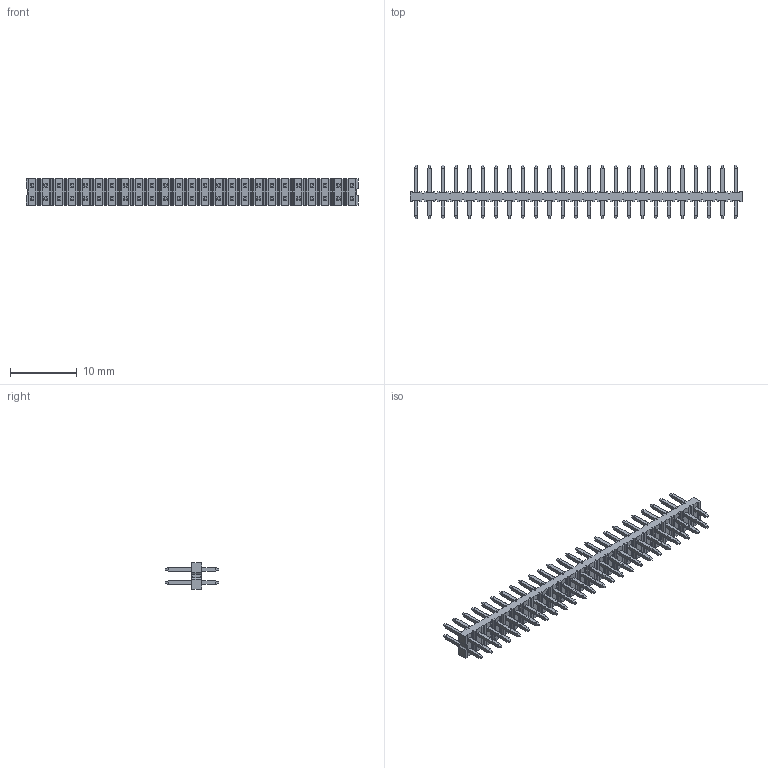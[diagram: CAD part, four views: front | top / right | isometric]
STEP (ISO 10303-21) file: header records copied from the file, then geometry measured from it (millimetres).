
FILE_DESCRIPTION((''),'2;1');
FILE_NAME('877585017','2018-12-12T',('gga'),(''),'PRO/ENGINEER BY PARAMETRIC TECHNOLOGY CORPORATION, 2016010','PRO/ENGINEER BY PARAMETRIC TECHNOLOGY CORPORATION, 2016010','');
FILE_SCHEMA(('CONFIG_CONTROL_DESIGN'));
Length unit declared in the file: millimetre
Products named in the file (1): 877585017
Bounding box: 49.9 x 8.1 x 4 mm (x, y, z)
Volume: 332.7 mm3; surface area: 1318.9 mm2
Topology: 1 solids, 1 shells, 1306 faces, 3312 edges, 2108 vertices
Faces by surface type: plane 1254, cylinder 52
Entity records: 38057 total; most frequent: CARTESIAN_POINT 6627, ORIENTED_EDGE 6424, DIRECTION 6130, EDGE_CURVE 3212, VECTOR 3108, LINE 3108, VERTEX_POINT 2008, AXIS2_PLACEMENT_3D 1511
